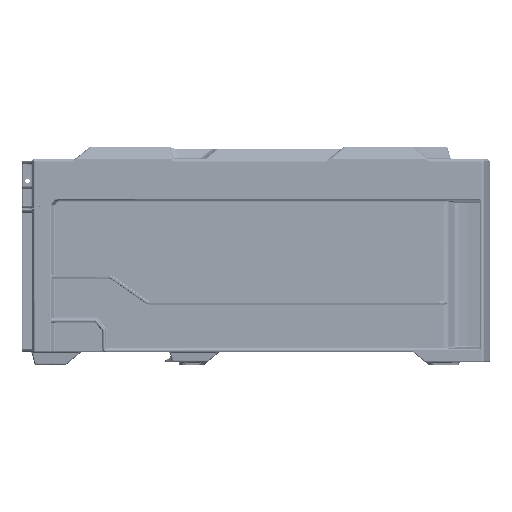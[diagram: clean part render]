
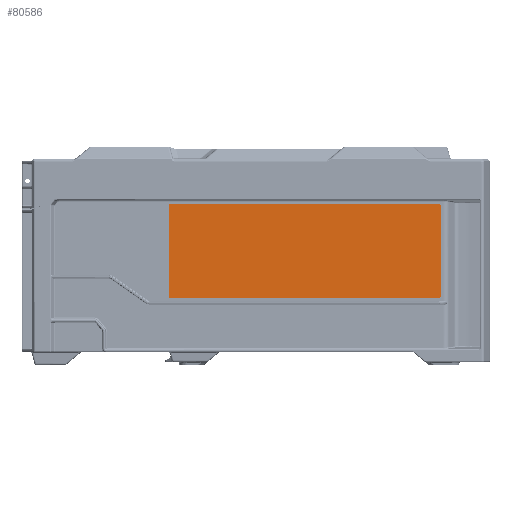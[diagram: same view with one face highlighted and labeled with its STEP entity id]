
A CAD part, left-side view. The second image highlights one B-rep face of the part: STEP entity #80586.
In plain terms, the highlighted planar face has unit normal (-1, 0, 0).
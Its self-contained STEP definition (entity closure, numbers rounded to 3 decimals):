
#59993=CIRCLE('',#279504,0.5);
#59994=CIRCLE('',#279505,0.5);
#80586=ADVANCED_FACE('',(#97060),#84155,.T.);
#84155=PLANE('',#279506);
#97060=FACE_OUTER_BOUND('',#110976,.T.);
#110976=EDGE_LOOP('',(#179280,#179281,#179282,#179283,#179284,#179285));
#179280=ORIENTED_EDGE('',*,*,#233371,.T.);
#179281=ORIENTED_EDGE('',*,*,#233377,.T.);
#179282=ORIENTED_EDGE('',*,*,#233374,.T.);
#179283=ORIENTED_EDGE('',*,*,#233376,.T.);
#179284=ORIENTED_EDGE('',*,*,#233367,.T.);
#179285=ORIENTED_EDGE('',*,*,#233378,.T.);
#201410=VERTEX_POINT('',#536925);
#201411=VERTEX_POINT('',#536926);
#201412=VERTEX_POINT('',#536931);
#201413=VERTEX_POINT('',#536933);
#201414=VERTEX_POINT('',#536937);
#201415=VERTEX_POINT('',#536939);
#233367=EDGE_CURVE('',#201410,#201411,#246228,.T.);
#233371=EDGE_CURVE('',#201413,#201412,#246232,.T.);
#233374=EDGE_CURVE('',#201415,#201414,#246235,.T.);
#233376=EDGE_CURVE('',#201414,#201410,#246237,.T.);
#233377=EDGE_CURVE('',#201412,#201415,#59993,.T.);
#233378=EDGE_CURVE('',#201411,#201413,#59994,.T.);
#246228=LINE('',#536924,#258247);
#246232=LINE('',#536932,#258251);
#246235=LINE('',#536938,#258254);
#246237=LINE('',#536942,#258256);
#258247=VECTOR('',#333689,1.);
#258251=VECTOR('',#333695,1.);
#258254=VECTOR('',#333700,1.);
#258256=VECTOR('',#333704,1.);
#279504=AXIS2_PLACEMENT_3D('',#536944,#333707,#333708);
#279505=AXIS2_PLACEMENT_3D('',#536945,#333709,#333710);
#279506=AXIS2_PLACEMENT_3D('',#536946,#333711,#333712);
#333689=DIRECTION('',(0.,-1.,0.));
#333695=DIRECTION('',(0.,0.,1.));
#333700=DIRECTION('',(0.,1.,0.));
#333704=DIRECTION('',(0.,0.,-1.));
#333707=DIRECTION('',(-1.,0.,0.));
#333708=DIRECTION('',(0.,0.,-1.));
#333709=DIRECTION('',(-1.,0.,0.));
#333710=DIRECTION('',(0.,0.,-1.));
#333711=DIRECTION('',(-1.,0.,0.));
#333712=DIRECTION('',(0.,0.,-1.));
#536924=CARTESIAN_POINT('',(-292.4,100.,-92.75));
#536925=CARTESIAN_POINT('',(-292.4,-24.416,-92.75));
#536926=CARTESIAN_POINT('',(-292.4,-253.916,-92.75));
#536931=CARTESIAN_POINT('',(-292.4,-254.416,-14.25));
#536932=CARTESIAN_POINT('',(-292.4,-254.416,0.));
#536933=CARTESIAN_POINT('',(-292.4,-254.416,-92.25));
#536937=CARTESIAN_POINT('',(-292.4,-24.416,-13.75));
#536938=CARTESIAN_POINT('',(-292.4,100.,-13.75));
#536939=CARTESIAN_POINT('',(-292.4,-253.916,-13.75));
#536942=CARTESIAN_POINT('',(-292.4,-24.416,0.));
#536944=CARTESIAN_POINT('',(-292.4,-253.916,-14.25));
#536945=CARTESIAN_POINT('',(-292.4,-253.916,-92.25));
#536946=CARTESIAN_POINT('',(-292.4,100.,0.));
